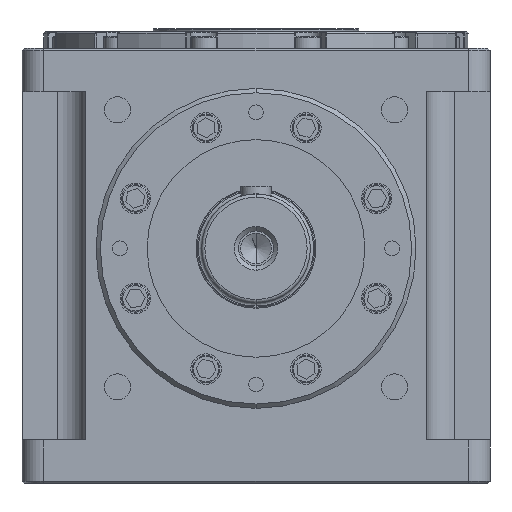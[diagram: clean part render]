
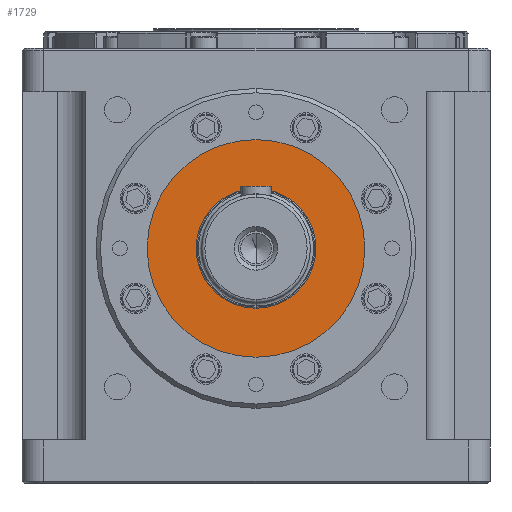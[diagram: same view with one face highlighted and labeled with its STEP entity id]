
A CAD part, front view. The second image highlights one B-rep face of the part: STEP entity #1729.
In plain terms, the highlighted planar face has unit normal (0, -1, 0).
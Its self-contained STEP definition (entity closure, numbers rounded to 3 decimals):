
#123 = CARTESIAN_POINT ( 'NONE',  ( 0., -71., 0. ) ) ;
#763 = ORIENTED_EDGE ( 'NONE', *, *, #10433, .F. ) ;
#1534 = DIRECTION ( 'NONE',  ( 0., -1., 0. ) ) ;
#1729 = ADVANCED_FACE ( 'NONE', ( #4461, #3096 ), #9484, .T. ) ;
#3001 = EDGE_LOOP ( 'NONE', ( #15962, #763 ) ) ;
#3096 = FACE_OUTER_BOUND ( 'NONE', #13221, .T. ) ;
#3179 = DIRECTION ( 'NONE',  ( 0., -1., 0. ) ) ;
#3357 = VERTEX_POINT ( 'NONE', #17725 ) ;
#3498 = AXIS2_PLACEMENT_3D ( 'NONE', #6226, #3179, #9573 ) ;
#4461 = FACE_BOUND ( 'NONE', #3001, .T. ) ;
#5628 = CARTESIAN_POINT ( 'NONE',  ( 0., -71., 50. ) ) ;
#5636 = CIRCLE ( 'NONE', #11984, 27.5 ) ;
#6141 = CARTESIAN_POINT ( 'NONE',  ( 0., -71., 0. ) ) ;
#6226 = CARTESIAN_POINT ( 'NONE',  ( 0., -71., 0. ) ) ;
#7864 = AXIS2_PLACEMENT_3D ( 'NONE', #20532, #15492, #20123 ) ;
#7871 = CIRCLE ( 'NONE', #15908, 50. ) ;
#8603 = AXIS2_PLACEMENT_3D ( 'NONE', #6141, #1534, #11063 ) ;
#9092 = DIRECTION ( 'NONE',  ( 0., -1., 0. ) ) ;
#9484 = PLANE ( 'NONE',  #8603 ) ;
#9573 = DIRECTION ( 'NONE',  ( 0., 0., -1. ) ) ;
#10433 = EDGE_CURVE ( 'NONE', #11940, #3357, #18905, .T. ) ;
#10865 = EDGE_CURVE ( 'NONE', #15206, #15108, #7871, .T. ) ;
#11063 = DIRECTION ( 'NONE',  ( 0., 0., -1. ) ) ;
#11940 = VERTEX_POINT ( 'NONE', #14738 ) ;
#11984 = AXIS2_PLACEMENT_3D ( 'NONE', #13718, #9092, #14028 ) ;
#13221 = EDGE_LOOP ( 'NONE', ( #16164, #18105 ) ) ;
#13718 = CARTESIAN_POINT ( 'NONE',  ( 0., -71., 0. ) ) ;
#14028 = DIRECTION ( 'NONE',  ( 0., 0., -1. ) ) ;
#14380 = DIRECTION ( 'NONE',  ( 0., 0., -1. ) ) ;
#14692 = DIRECTION ( 'NONE',  ( 0., -1., 0. ) ) ;
#14738 = CARTESIAN_POINT ( 'NONE',  ( 0., -71., -27.5 ) ) ;
#15108 = VERTEX_POINT ( 'NONE', #20396 ) ;
#15206 = VERTEX_POINT ( 'NONE', #5628 ) ;
#15492 = DIRECTION ( 'NONE',  ( 0., -1., 0. ) ) ;
#15908 = AXIS2_PLACEMENT_3D ( 'NONE', #123, #14692, #14380 ) ;
#15962 = ORIENTED_EDGE ( 'NONE', *, *, #18515, .F. ) ;
#16164 = ORIENTED_EDGE ( 'NONE', *, *, #20701, .T. ) ;
#17725 = CARTESIAN_POINT ( 'NONE',  ( 0., -71., 27.5 ) ) ;
#17910 = CIRCLE ( 'NONE', #7864, 50. ) ;
#18105 = ORIENTED_EDGE ( 'NONE', *, *, #10865, .T. ) ;
#18515 = EDGE_CURVE ( 'NONE', #3357, #11940, #5636, .T. ) ;
#18905 = CIRCLE ( 'NONE', #3498, 27.5 ) ;
#20123 = DIRECTION ( 'NONE',  ( 0., 0., -1. ) ) ;
#20396 = CARTESIAN_POINT ( 'NONE',  ( 0., -71., -50. ) ) ;
#20532 = CARTESIAN_POINT ( 'NONE',  ( 0., -71., 0. ) ) ;
#20701 = EDGE_CURVE ( 'NONE', #15108, #15206, #17910, .T. ) ;
